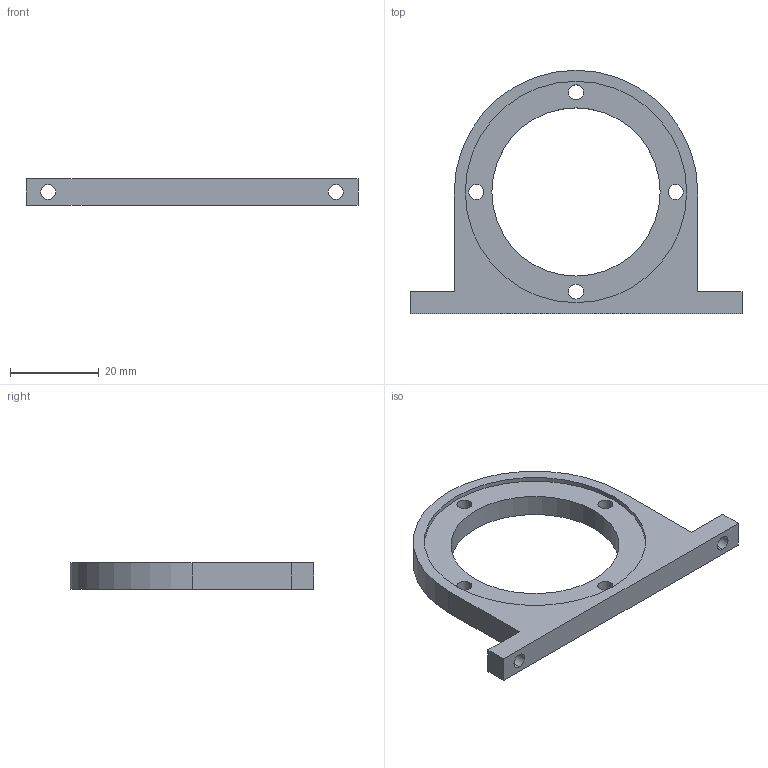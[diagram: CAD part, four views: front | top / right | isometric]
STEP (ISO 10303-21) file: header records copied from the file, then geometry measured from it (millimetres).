
FILE_DESCRIPTION(/* description */ (''),/* implementation_level */ '2;1');
FILE_NAME(/* name */ 'CWC-CY0024-P99_Torque Sensor Bracket.stp',/* time_stamp */ '2026-02-27T15:57:22+01:00',/* author */ (''),/* organization */ (''),/* preprocessor_version */ 'ST-DEVELOPER v18.1',/* originating_system */ 'SIEMENS PLM Software NX 1988',/* authorisation */ '');
FILE_SCHEMA (('AUTOMOTIVE_DESIGN { 1 0 10303 214 3 1 1 1 }'));
Length unit declared in the file: millimetre
Products named in the file (1): anto4E0CB30D4gt6
Bounding box: 75 x 55 x 6 mm (x, y, z)
Volume: 8896 mm3; surface area: 5716.4 mm2
Topology: 1 solids, 1 shells, 28 faces, 75 edges, 50 vertices
Faces by surface type: cylinder 18, plane 10
Entity records: 955 total; most frequent: DIRECTION 169, CARTESIAN_POINT 154, ORIENTED_EDGE 150, EDGE_CURVE 75, AXIS2_PLACEMENT_3D 65, VERTEX_POINT 50, EDGE_LOOP 43, LINE 39
